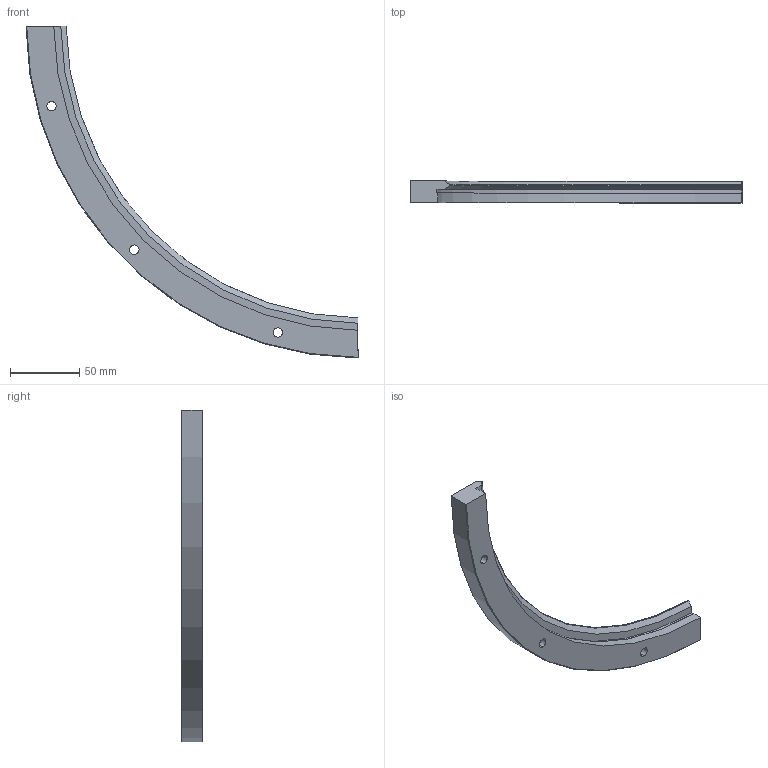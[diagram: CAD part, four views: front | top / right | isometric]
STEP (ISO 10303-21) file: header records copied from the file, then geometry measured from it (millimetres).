
FILE_DESCRIPTION(('STEP AP203'),'1');
FILE_NAME('rim_482_r90.stp','2021-08-30T06:00:08',('TraceParts'),('TraceParts S.A.'),'Spatial InterOp 3D',' ',' ');
FILE_SCHEMA(('CONFIG_CONTROL_DESIGN'));
Length unit declared in the file: millimetre
Products named in the file (1): 1
Bounding box: 239.24 x 15.5 x 239.24 mm (x, y, z)
Volume: 122588.1 mm3; surface area: 32113.5 mm2
Topology: 1 solids, 1 shells, 30 faces, 75 edges, 50 vertices
Faces by surface type: cylinder 15, plane 9, cone 4, torus 2
Entity records: 992 total; most frequent: CARTESIAN_POINT 200, DIRECTION 162, ORIENTED_EDGE 150, EDGE_CURVE 75, AXIS2_PLACEMENT_3D 68, VERTEX_POINT 50, EDGE_LOOP 39, CIRCLE 37
